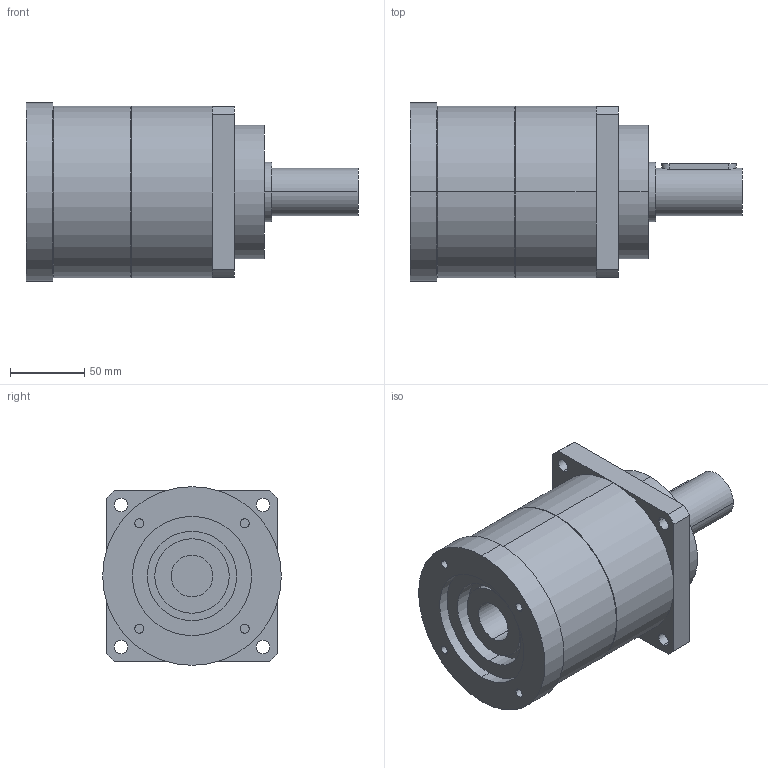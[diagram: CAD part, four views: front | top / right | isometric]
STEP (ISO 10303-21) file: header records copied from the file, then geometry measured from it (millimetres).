
FILE_DESCRIPTION(('CoCreate Modeling STEP Export'),'2;1');
FILE_NAME('GPT120_ig-3-4-5-7-10_32_B5A_28_P24.stp','2015-02-04T17:00:58',(''),(''),'CoCreate Modeling STEP processor for AP214 (Solid Model)','CoCreate Modeling 16.00C 25-Feb-2009 (C) Parametric Technology GmbH','');
FILE_SCHEMA(('AUTOMOTIVE_DESIGN { 1 0 10303 214 1 1 1 1 }'));
Length unit declared in the file: millimetre
Products named in the file (2): GPT120_ig-3-4-5-7-10_32_B5A_28_P24
Assembly tree (1 placements, depth 2):
  GPT120_ig-3-4-5-7-10_32_B5A_28_P24
    GPT120_ig-3-4-5-7-10_32_B5A_28_P24
Bounding box: 223 x 120 x 120 mm (x, y, z)
Volume: 1598496.8 mm3; surface area: 106657.7 mm2
Topology: 1 solids, 1 shells, 75 faces, 184 edges, 125 vertices
Faces by surface type: cylinder 44, plane 27, cone 4
Entity records: 2345 total; most frequent: CARTESIAN_POINT 718, ORIENTED_EDGE 368, DIRECTION 280, EDGE_CURVE 184, VERTEX_POINT 125, AXIS2_PLACEMENT_3D 105, EDGE_LOOP 97, FACE_OUTER_BOUND 75
